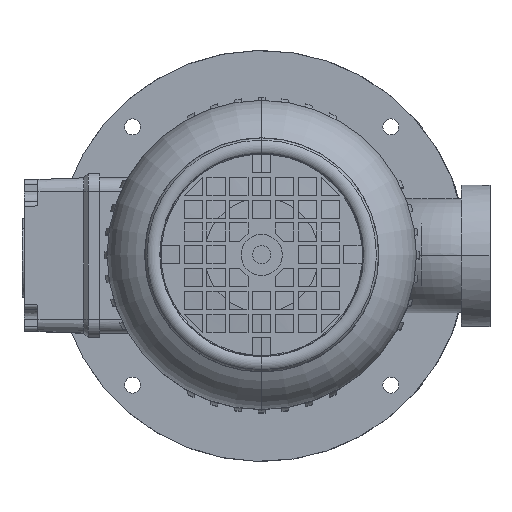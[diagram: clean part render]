
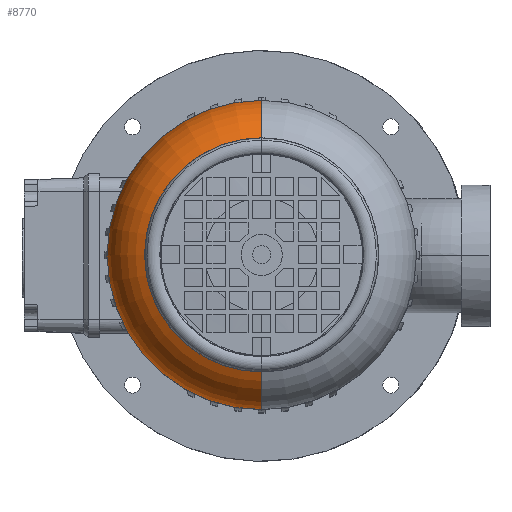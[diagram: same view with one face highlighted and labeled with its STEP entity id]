
A CAD part, top view. The second image highlights one B-rep face of the part: STEP entity #8770.
In plain terms, the highlighted toroidal (fillet/blend) face has major radius 39.75 mm and minor radius 28 mm.
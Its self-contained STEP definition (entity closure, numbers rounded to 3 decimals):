
#5462=VERTEX_POINT('',#15494);
#6788=VERTEX_POINT('',#16952);
#7804=EDGE_CURVE('',#5462,#6788,#18052,.T.);
#8722=EDGE_CURVE('',#9672,#5462,#19046,.T.);
#8770=ADVANCED_FACE('',(#19099),#19100,.T.);
#9672=VERTEX_POINT('',#20078);
#11402=EDGE_CURVE('',#9672,#14124,#21988,.T.);
#13454=EDGE_CURVE('',#6788,#14124,#24332,.T.);
#14124=VERTEX_POINT('',#25062);
#15494=CARTESIAN_POINT('',(0.,-67.75,196.));
#16952=CARTESIAN_POINT('',(0.0,67.75,196.));
#18052=CIRCLE('',#32182,67.75);
#19046=CIRCLE('',#34350,28.);
#19099=FACE_OUTER_BOUND('',#34457,.T.);
#19100=TOROIDAL_SURFACE('',#34458,39.75,28.);
#20078=CARTESIAN_POINT('',(0.,-51.25,221.529));
#21988=CIRCLE('',#40432,51.25);
#24332=CIRCLE('',#45811,28.);
#25062=CARTESIAN_POINT('',(0.0,51.25,221.529));
#32182=AXIS2_PLACEMENT_3D('',#52612,#52613,#52614);
#34350=AXIS2_PLACEMENT_3D('',#53562,#53563,#53564);
#34457=EDGE_LOOP('',(#53630,#53631,#53632,#53633));
#34458=AXIS2_PLACEMENT_3D('',#53634,#53635,#53636);
#40432=AXIS2_PLACEMENT_3D('',#56802,#56803,#56804);
#45811=AXIS2_PLACEMENT_3D('',#59576,#59577,#59578);
#52612=CARTESIAN_POINT('',(0.0,0.0,196.));
#52613=DIRECTION('',(0.0,0.0,-1.0));
#52614=DIRECTION('',(0.0,1.0,0.0));
#53562=CARTESIAN_POINT('',(0.,-39.75,196.));
#53563=DIRECTION('',(1.0,0.,0.0));
#53564=DIRECTION('',(0.,-1.0,-0.0));
#53630=ORIENTED_EDGE('',*,*,#8722,.F.);
#53631=ORIENTED_EDGE('',*,*,#11402,.T.);
#53632=ORIENTED_EDGE('',*,*,#13454,.F.);
#53633=ORIENTED_EDGE('',*,*,#7804,.F.);
#53634=CARTESIAN_POINT('',(0.0,0.0,196.));
#53635=DIRECTION('',(0.0,0.0,-1.0));
#53636=DIRECTION('',(0.0,-1.0,0.0));
#56802=CARTESIAN_POINT('',(0.0,0.0,221.529));
#56803=DIRECTION('',(0.0,0.0,-1.0));
#56804=DIRECTION('',(0.0,1.0,0.0));
#59576=CARTESIAN_POINT('',(0.,39.75,196.));
#59577=DIRECTION('',(1.0,0.,0.0));
#59578=DIRECTION('',(0.,1.0,0.0));
